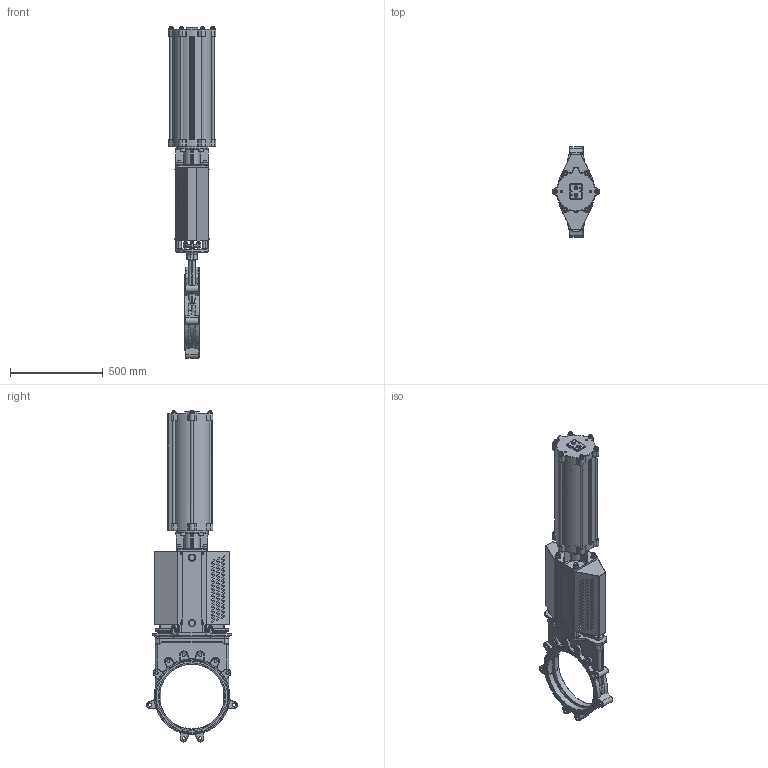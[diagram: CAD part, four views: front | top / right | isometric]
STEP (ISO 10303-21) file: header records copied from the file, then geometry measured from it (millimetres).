
FILE_DESCRIPTION(/* description */ (''),/* implementation_level */ '2;1');
FILE_NAME(/* name */ 'F:\Emir\3D-block special\WB\WBA-DN350-PN10-FRSC200-453M.stp',/* time_stamp */ '2018-02-23T13:42:44+01:00',/* author */ ('emimus'),/* organization */ (''),/* preprocessor_version */ 'ST-DEVELOPER v17',/* originating_system */ 'Autodesk Inventor 2018',/* authorisation */ '');
FILE_SCHEMA (('CONFIG_CONTROL_DESIGN'));
Products named in the file (1): WBA-DN350-PN10-FRSC200-453M
Bounding box: 256 x 489.15 x 1790.05 mm (x, y, z)
Volume: 17504184.6 mm3; surface area: 4226263.7 mm2
Topology: 1 solids, 1 shells, 3523 faces, 8851 edges, 5462 vertices
Faces by surface type: cylinder 1149, plane 1135, bspline 430, torus 429, cone 230, sphere 150
Full cylindrical faces by diameter (mm): 4 x2, 4.2 x16, 4.5 x8, 4.917 x7, 7.5 x4, 8.376 x4, 9.5 x2, 10 x9, 10.106 x6, 12 x20, 13 x18, 13.835 x4, 16 x8, 17 x4, 17.294 x16, 18 x3, 18.631 x2, 24 x19, 25 x4, 28 x4, 30 x4, 31.67 x1, 33 x1, 36 x2, 38 x4, 40 x1, 40.1 x1, 40.2 x2, 44 x2, 46 x1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
Entity records: 121518 total; most frequent: CARTESIAN_POINT 37204, DIRECTION 18109, ORIENTED_EDGE 17618, EDGE_CURVE 8809, AXIS2_PLACEMENT_3D 7326, VERTEX_POINT 5462, EDGE_LOOP 3985, CIRCLE 3979
